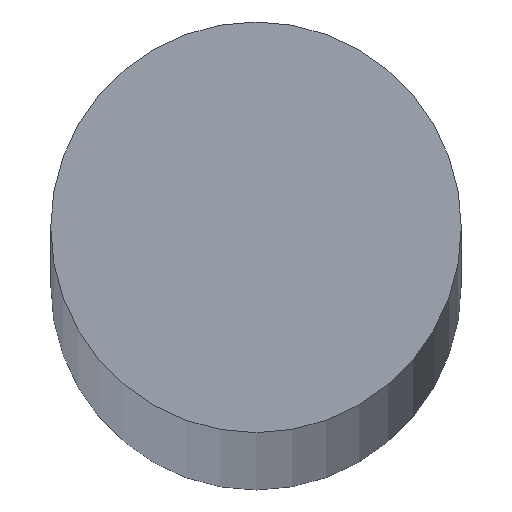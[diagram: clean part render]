
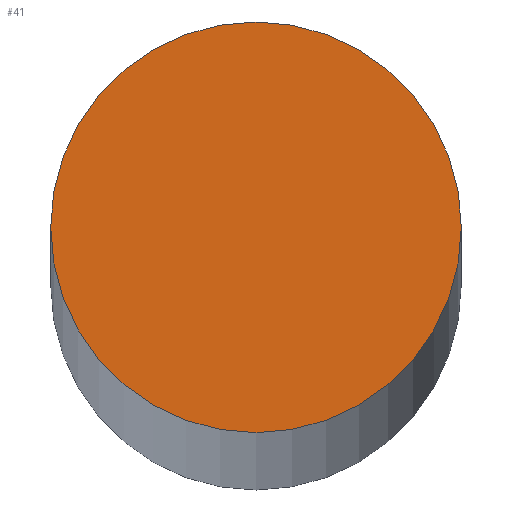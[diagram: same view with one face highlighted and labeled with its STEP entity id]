
A CAD part, top view. The second image highlights one B-rep face of the part: STEP entity #41.
In plain terms, the highlighted planar face has unit normal (0, 0, 1).
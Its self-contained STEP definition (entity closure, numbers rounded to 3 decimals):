
#16=PLANE('',#66);
#19=FACE_OUTER_BOUND('',#22,.T.);
#22=EDGE_LOOP('',(#37));
#25=CIRCLE('',#63,10.);
#27=VERTEX_POINT('',#82);
#29=EDGE_CURVE('',#27,#27,#25,.T.);
#37=ORIENTED_EDGE('',*,*,#29,.T.);
#41=ADVANCED_FACE('',(#19),#16,.T.);
#63=AXIS2_PLACEMENT_3D('',#83,#71,#72);
#66=AXIS2_PLACEMENT_3D('',#88,#78,#79);
#71=DIRECTION('center_axis',(0.,0.,1.));
#72=DIRECTION('ref_axis',(-1.,0.,0.));
#78=DIRECTION('center_axis',(0.,0.,1.));
#79=DIRECTION('ref_axis',(1.,0.,0.));
#82=CARTESIAN_POINT('',(10.,0.,1600.));
#83=CARTESIAN_POINT('Origin',(0.,0.,1600.));
#88=CARTESIAN_POINT('Origin',(0.,0.,1600.));
